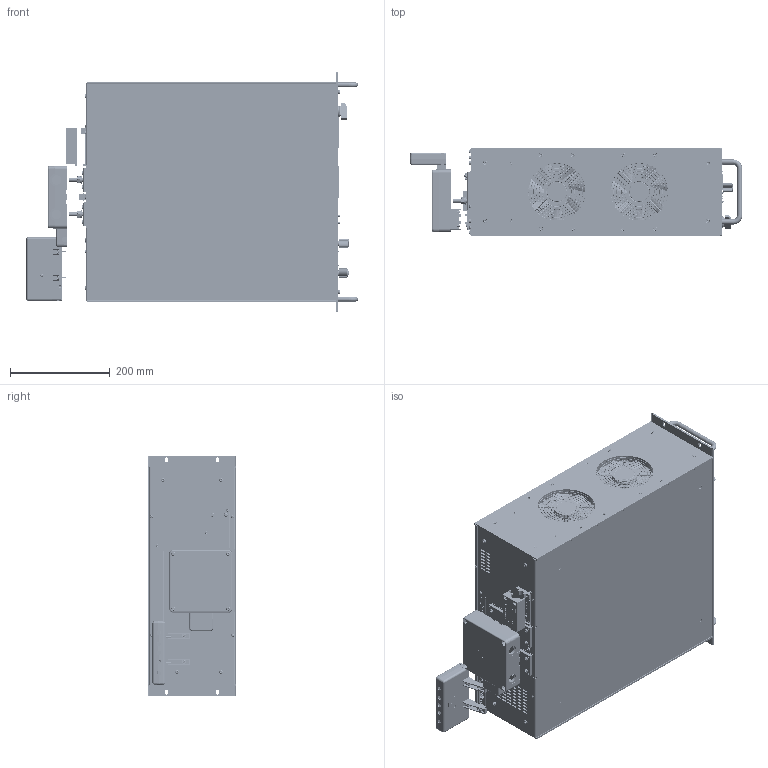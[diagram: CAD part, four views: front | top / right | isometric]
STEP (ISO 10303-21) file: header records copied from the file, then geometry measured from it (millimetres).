
FILE_DESCRIPTION(/* description */ (''),/* implementation_level */ '2;1');
FILE_NAME(/* name */ 'A:\Data\SM6000\SM6000 presentation\step file\SM300-20\SM300-20.stp',/* time_stamp */ '2022-11-11T14:36:39+01:00',/* author */ ('Simon'),/* organization */ (''),/* preprocessor_version */ 'ST-DEVELOPER v18.1',/* originating_system */ 'Autodesk Inventor 2022',/* authorisation */ '');
FILE_SCHEMA (('AUTOMOTIVE_DESIGN { 1 0 10303 214 3 1 1 }'));
Products named in the file (1): SM300-20simplify
Bounding box: 666 x 177 x 482.5 mm (x, y, z)
Volume: 38461506.7 mm3; surface area: 1157658.6 mm2
Topology: 5 solids, 5 shells, 9667 faces, 25410 edges, 16468 vertices
Faces by surface type: plane 6020, bspline 1397, cylinder 1312, cone 691, torus 206, sphere 41
Full cylindrical faces by diameter (mm): 0.339 x5, 0.5 x22, 1.4 x16, 1.5 x1, 2.459 x2, 2.5 x4, 2.9 x1, 3 x25, 3.2 x32, 3.242 x10, 3.5 x18, 4 x43, 4.1 x23, 4.2 x8, 4.3 x1, 4.5 x18, 5 x1, 5.5 x6, 5.6 x4, 6 x13, 6.2 x3, 6.5 x2, 7 x8, 7.2 x8, 7.5 x2, 7.7 x4, 7.8 x32, 8 x4, 8.5 x6, 8.8 x2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
Entity records: 325364 total; most frequent: CARTESIAN_POINT 88522, ORIENTED_EDGE 50674, DIRECTION 41275, EDGE_CURVE 25337, VERTEX_POINT 16468, LINE 15895, VECTOR 15895, AXIS2_PLACEMENT_3D 12690
